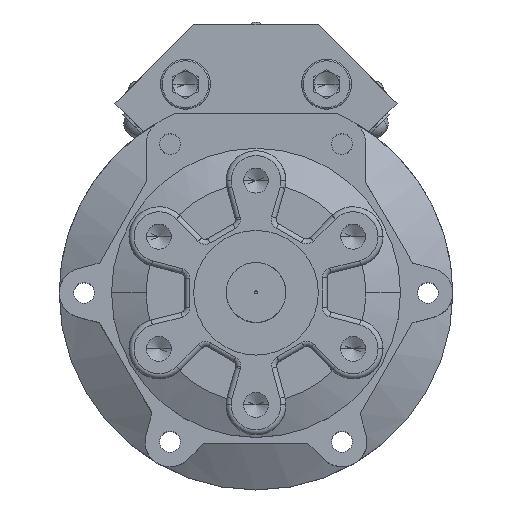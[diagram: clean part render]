
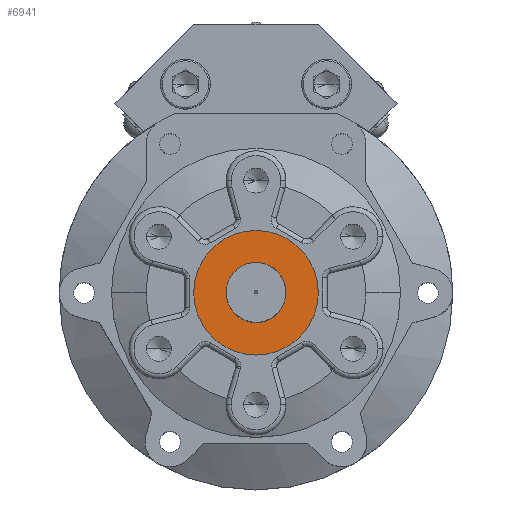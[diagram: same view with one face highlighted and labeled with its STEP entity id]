
A CAD part, top view. The second image highlights one B-rep face of the part: STEP entity #6941.
In plain terms, the highlighted planar face has unit normal (0, 0, 1).
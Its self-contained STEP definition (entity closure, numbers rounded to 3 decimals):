
#76 = CIRCLE ( 'NONE', #26916, 12.5 ) ;
#900 = CIRCLE ( 'NONE', #9145, 6. ) ;
#1800 = DIRECTION ( 'NONE',  ( 1., 0., 0. ) ) ;
#2300 = EDGE_CURVE ( 'NONE', #10207, #22502, #6594, .T. ) ;
#2305 = DIRECTION ( 'NONE',  ( 0., 0., 1. ) ) ;
#2378 = EDGE_CURVE ( 'NONE', #4098, #11485, #900, .T. ) ;
#4098 = VERTEX_POINT ( 'NONE', #15814 ) ;
#4884 = DIRECTION ( 'NONE',  ( 1., 0., 0. ) ) ;
#6594 = CIRCLE ( 'NONE', #25340, 12.5 ) ;
#6776 = EDGE_CURVE ( 'NONE', #11485, #4098, #27283, .T. ) ;
#6941 = ADVANCED_FACE ( 'NONE', ( #16173, #11812 ), #15129, .T. ) ;
#7694 = CARTESIAN_POINT ( 'NONE',  ( 0., 0., 0. ) ) ;
#7784 = CARTESIAN_POINT ( 'NONE',  ( 0., 0., 0. ) ) ;
#7877 = DIRECTION ( 'NONE',  ( 0., 0., 1. ) ) ;
#8167 = CARTESIAN_POINT ( 'NONE',  ( 0., 0., 0. ) ) ;
#8545 = CARTESIAN_POINT ( 'NONE',  ( 6., 0., 0. ) ) ;
#9145 = AXIS2_PLACEMENT_3D ( 'NONE', #7784, #27036, #14154 ) ;
#10207 = VERTEX_POINT ( 'NONE', #27862 ) ;
#10823 = ORIENTED_EDGE ( 'NONE', *, *, #2300, .T. ) ;
#10900 = EDGE_LOOP ( 'NONE', ( #19603, #25161 ) ) ;
#11485 = VERTEX_POINT ( 'NONE', #8545 ) ;
#11812 = FACE_OUTER_BOUND ( 'NONE', #20525, .T. ) ;
#12079 = AXIS2_PLACEMENT_3D ( 'NONE', #19544, #2305, #21687 ) ;
#13387 = DIRECTION ( 'NONE',  ( 0., 0., 1. ) ) ;
#14154 = DIRECTION ( 'NONE',  ( 1., 0., 0. ) ) ;
#15129 = PLANE ( 'NONE',  #12079 ) ;
#15814 = CARTESIAN_POINT ( 'NONE',  ( -6., 0., 0. ) ) ;
#16023 = CARTESIAN_POINT ( 'NONE',  ( 12.5, 0., 0. ) ) ;
#16173 = FACE_BOUND ( 'NONE', #10900, .T. ) ;
#19544 = CARTESIAN_POINT ( 'NONE',  ( 0., 0., 0. ) ) ;
#19603 = ORIENTED_EDGE ( 'NONE', *, *, #6776, .F. ) ;
#20362 = DIRECTION ( 'NONE',  ( 1., 0., 0. ) ) ;
#20525 = EDGE_LOOP ( 'NONE', ( #25832, #10823 ) ) ;
#20929 = DIRECTION ( 'NONE',  ( 0., 0., 1. ) ) ;
#21687 = DIRECTION ( 'NONE',  ( 1., 0., 0. ) ) ;
#22013 = CARTESIAN_POINT ( 'NONE',  ( 0., 0., 0. ) ) ;
#22502 = VERTEX_POINT ( 'NONE', #16023 ) ;
#23069 = AXIS2_PLACEMENT_3D ( 'NONE', #22013, #13387, #4884 ) ;
#25161 = ORIENTED_EDGE ( 'NONE', *, *, #2378, .F. ) ;
#25340 = AXIS2_PLACEMENT_3D ( 'NONE', #7694, #7877, #20362 ) ;
#25396 = EDGE_CURVE ( 'NONE', #22502, #10207, #76, .T. ) ;
#25832 = ORIENTED_EDGE ( 'NONE', *, *, #25396, .T. ) ;
#26916 = AXIS2_PLACEMENT_3D ( 'NONE', #8167, #20929, #1800 ) ;
#27036 = DIRECTION ( 'NONE',  ( 0., 0., 1. ) ) ;
#27283 = CIRCLE ( 'NONE', #23069, 6. ) ;
#27862 = CARTESIAN_POINT ( 'NONE',  ( -12.5, 0., 0. ) ) ;
